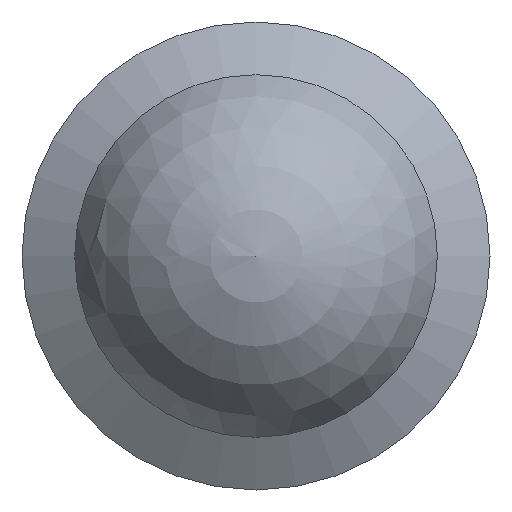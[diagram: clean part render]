
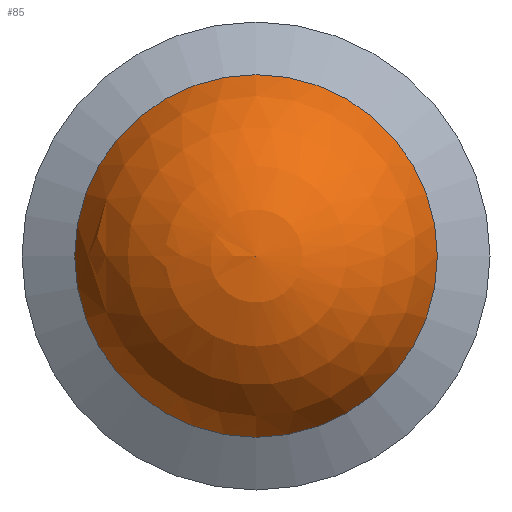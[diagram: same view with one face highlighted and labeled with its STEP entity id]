
A CAD part, front view. The second image highlights one B-rep face of the part: STEP entity #85.
In plain terms, the highlighted spherical face has radius 8.25 mm.
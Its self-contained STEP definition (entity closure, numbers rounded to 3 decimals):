
#85 = ADVANCED_FACE( '', ( #118, #119 ), #120, .T. );
#118 = FACE_BOUND( '', #156, .T. );
#119 = FACE_OUTER_BOUND( '', #157, .T. );
#120 = SPHERICAL_SURFACE( '', #158, 8.25 );
#156 = VERTEX_LOOP( '', #230 );
#157 = EDGE_LOOP( '', ( #231 ) );
#158 = AXIS2_PLACEMENT_3D( '', #232, #233, #234 );
#230 = VERTEX_POINT( '', #285 );
#231 = ORIENTED_EDGE( '', *, *, #284, .T. );
#232 = CARTESIAN_POINT( '', ( 0., 8.25, 0. ) );
#233 = DIRECTION( '', ( 0., -1., 0. ) );
#234 = DIRECTION( '', ( -1., 0., 0. ) );
#284 = EDGE_CURVE( '', #328, #328, #329, .T. );
#285 = CARTESIAN_POINT( '', ( 0., 0., 0. ) );
#328 = VERTEX_POINT( '', #387 );
#329 = CIRCLE( '', #388, 7.75 );
#387 = CARTESIAN_POINT( '', ( 0., 5.422, -7.75 ) );
#388 = AXIS2_PLACEMENT_3D( '', #428, #429, #430 );
#428 = CARTESIAN_POINT( '', ( 0., 5.422, 0. ) );
#429 = DIRECTION( '', ( 0., -1., 0. ) );
#430 = DIRECTION( '', ( 0., 0., -1. ) );
